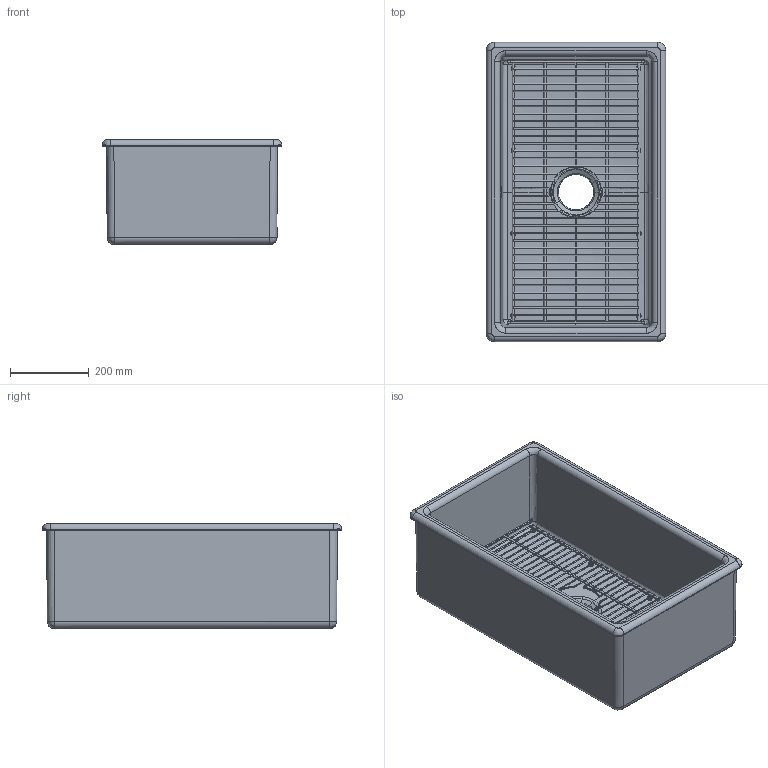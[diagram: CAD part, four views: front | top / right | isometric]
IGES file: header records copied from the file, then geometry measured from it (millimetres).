
Start section: SolidWorks IGES file using analytic representation for surfaces
Global section: file name: C:\Users\ccai\Desktop\CeliaC\Projects\250127-ADHOC-02970 ROHL NF\SKU_UM3018WHseries_igs\HINS0762WH0SSAX.IGS; native system: SolidWorks 2023; preprocessor: SolidWorks 2023; author: ccai; date: 250124.114425; units: metre
Bounding box: 457.13 x 761.93 x 266.7 mm (x, y, z)
Surface area: 1882130.6 mm2 (no closed solid volume)
Topology: 0 solids, 0 shells, 594 faces, 10561 edges, 10548 vertices
Faces by surface type: bspline 373, revolution 221
